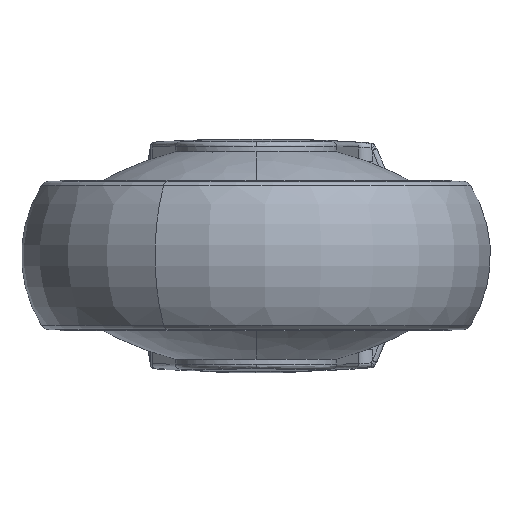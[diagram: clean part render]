
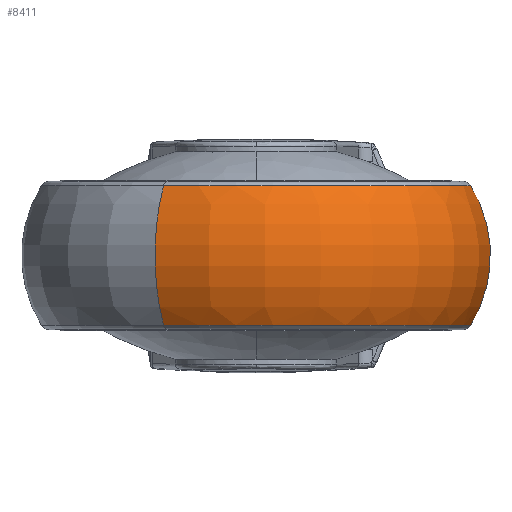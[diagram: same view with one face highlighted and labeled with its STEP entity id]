
A CAD part, front view. The second image highlights one B-rep face of the part: STEP entity #8411.
In plain terms, the highlighted toroidal (fillet/blend) face has major radius 22 mm and minor radius 28 mm.
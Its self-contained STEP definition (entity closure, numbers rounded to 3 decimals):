
#39 = EDGE_CURVE ( 'NONE', #36408, #36581, #147, .T. ) ;
#68 = EDGE_LOOP ( 'NONE', ( #26605, #27665, #26455, #23420 ) ) ;
#146 = AXIS2_PLACEMENT_3D ( 'NONE', #193, #192, #191 ) ;
#147 = CIRCLE ( 'NONE', #146, 45.764 ) ;
#191 = DIRECTION ( 'NONE',  ( 0.429, 0.903, 0. ) ) ;
#192 = DIRECTION ( 'NONE',  ( 0., 0., 1. ) ) ;
#193 = CARTESIAN_POINT ( 'NONE',  ( -4.698, -35.268, 14.892 ) ) ;
#8411 = ADVANCED_FACE ( 'NONE', ( #11859 ), #11851, .T. ) ;
#11840 = DIRECTION ( 'NONE',  ( 0.429, 0.903, 0. ) ) ;
#11841 = DIRECTION ( 'NONE',  ( 0., 0., 1. ) ) ;
#11843 = CARTESIAN_POINT ( 'NONE',  ( -4.698, -35.268, 0.085 ) ) ;
#11851 = TOROIDAL_SURFACE ( 'NONE', #11855, 22., 28. ) ;
#11855 = AXIS2_PLACEMENT_3D ( 'NONE', #11843, #11841, #11840 ) ;
#11859 = FACE_OUTER_BOUND ( 'NONE', #68, .T. ) ;
#23420 = ORIENTED_EDGE ( 'NONE', *, *, #39, .F. ) ;
#26455 = ORIENTED_EDGE ( 'NONE', *, *, #36619, .T. ) ;
#26605 = ORIENTED_EDGE ( 'NONE', *, *, #36579, .F. ) ;
#27665 = ORIENTED_EDGE ( 'NONE', *, *, #36548, .T. ) ;
#28369 = CARTESIAN_POINT ( 'NONE',  ( -24.348, -76.599, 14.892 ) ) ;
#28456 = CARTESIAN_POINT ( 'NONE',  ( 14.953, 6.063, -14.723 ) ) ;
#28461 = CARTESIAN_POINT ( 'NONE',  ( -14.144, -55.137, 0.085 ) ) ;
#28471 = AXIS2_PLACEMENT_3D ( 'NONE', #28461, #28477, #28532 ) ;
#28472 = CARTESIAN_POINT ( 'NONE',  ( 14.953, 6.063, 14.892 ) ) ;
#28477 = DIRECTION ( 'NONE',  ( -0.903, 0.429, 0. ) ) ;
#28480 = CIRCLE ( 'NONE', #28471, 28. ) ;
#28481 = DIRECTION ( 'NONE',  ( 0.429, 0.903, 0. ) ) ;
#28482 = DIRECTION ( 'NONE',  ( 0., 0., 1. ) ) ;
#28483 = CARTESIAN_POINT ( 'NONE',  ( -4.698, -35.268, -14.723 ) ) ;
#28484 = AXIS2_PLACEMENT_3D ( 'NONE', #28483, #28482, #28481 ) ;
#28487 = CARTESIAN_POINT ( 'NONE',  ( -24.348, -76.599, -14.723 ) ) ;
#28498 = CIRCLE ( 'NONE', #28484, 45.764 ) ;
#28501 = DIRECTION ( 'NONE',  ( 0.429, 0.903, 0. ) ) ;
#28502 = DIRECTION ( 'NONE',  ( 0.903, -0.429, 0. ) ) ;
#28503 = AXIS2_PLACEMENT_3D ( 'NONE', #28516, #28502, #28501 ) ;
#28516 = CARTESIAN_POINT ( 'NONE',  ( 4.749, -15.399, 0.085 ) ) ;
#28524 = CIRCLE ( 'NONE', #28503, 28. ) ;
#28532 = DIRECTION ( 'NONE',  ( -0.429, -0.903, 0. ) ) ;
#36408 = VERTEX_POINT ( 'NONE', #28369 ) ;
#36481 = VERTEX_POINT ( 'NONE', #28456 ) ;
#36490 = VERTEX_POINT ( 'NONE', #28487 ) ;
#36548 = EDGE_CURVE ( 'NONE', #36490, #36481, #28498, .T. ) ;
#36579 = EDGE_CURVE ( 'NONE', #36490, #36408, #28480, .T. ) ;
#36581 = VERTEX_POINT ( 'NONE', #28472 ) ;
#36619 = EDGE_CURVE ( 'NONE', #36481, #36581, #28524, .T. ) ;
